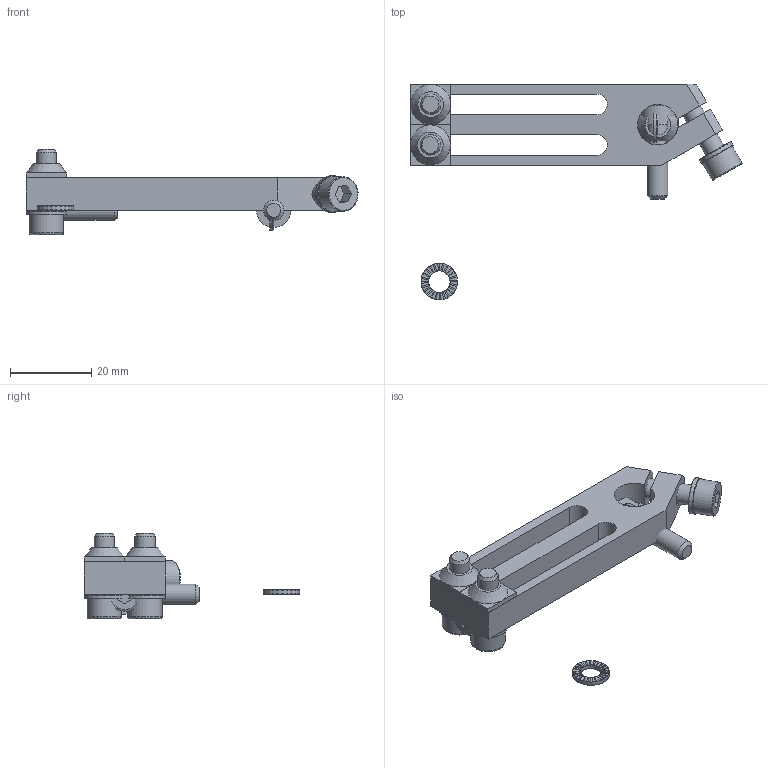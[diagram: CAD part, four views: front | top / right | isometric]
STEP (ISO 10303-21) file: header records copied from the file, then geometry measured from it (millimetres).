
FILE_DESCRIPTION( ( 'Unknown' ), '1' );
FILE_NAME( 'C:/Users/Fabrizio/Desktop/DISEGNI ACCESSORI FP SOLIDEDGE/CA.WSL.1040.VU.5.stp', 'Unknown', ( 'Unknown' ), ( 'Unknown' ), 'PSStep 13.0', 'Unknown', ' ' );
FILE_SCHEMA( ( 'AUTOMOTIVE_DESIGN { 1 0 10303 214 1 1 1 1 }' ) );
Length unit declared in the file: millimetre
Products named in the file (8): Assem1; CA.WSL.1040.VU; WSL.1040.VU; R.5.SCH; V-tcei M 5 x 18; rondellaDIN 125 - A 5.3; ca.02.05.007; V-tcei M  5 x 16
Bounding box: 81.78 x 53.14 x 21 mm (x, y, z)
Volume: 24800.9 mm3; surface area: 20684.5 mm2
Topology: 15 solids, 18 shells, 786 faces, 2208 edges, 1464 vertices
Faces by surface type: plane 717, cylinder 48, cone 12, torus 9
Full cylindrical faces by diameter (mm): 4.134 x3, 5 x9, 5.2 x3, 5.3 x6, 8.5 x6, 9 x3, 10 x3
Entity records: 10479 total; most frequent: DIRECTION 1487, CARTESIAN_POINT 1470, ORIENTED_EDGE 1426, EDGE_CURVE 713, AXIS2_PLACEMENT_3D 501, LINE 485, VECTOR 485, VERTEX_POINT 484
